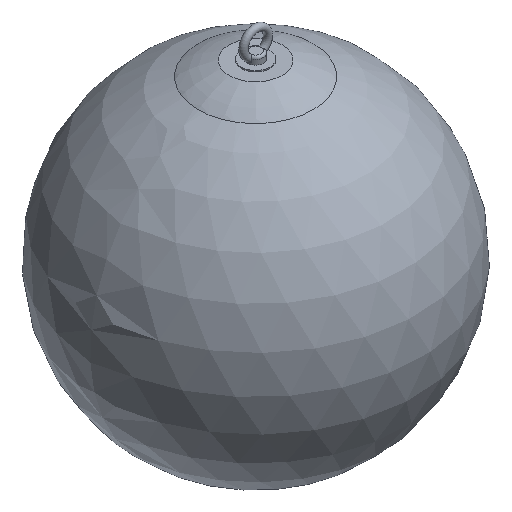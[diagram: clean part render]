
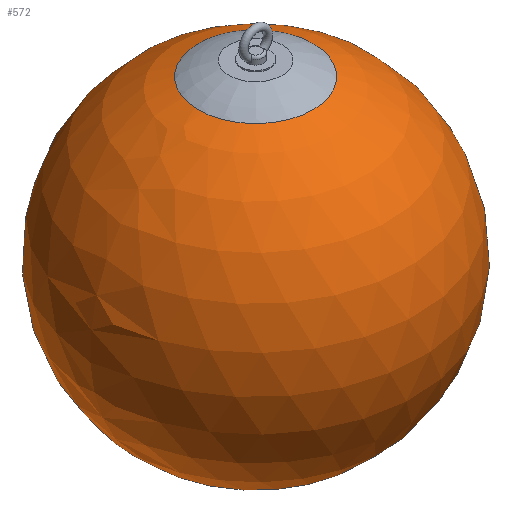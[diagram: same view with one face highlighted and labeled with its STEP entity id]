
A CAD part, isometric view. The second image highlights one B-rep face of the part: STEP entity #572.
In plain terms, the highlighted spherical face has radius 150 mm.
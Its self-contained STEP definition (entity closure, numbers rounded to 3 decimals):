
#27=SPHERICAL_SURFACE('',#673,150.);
#156=FACE_OUTER_BOUND('',#192,.T.);
#192=EDGE_LOOP('',(#526,#527,#528,#529));
#223=CIRCLE('',#674,41.414);
#224=CIRCLE('',#675,150.);
#225=CIRCLE('',#676,41.414);
#294=VERTEX_POINT('',#1245);
#295=VERTEX_POINT('',#1246);
#296=VERTEX_POINT('',#1248);
#373=EDGE_CURVE('',#294,#295,#223,.T.);
#374=EDGE_CURVE('',#296,#294,#224,.T.);
#375=EDGE_CURVE('',#295,#294,#225,.T.);
#526=ORIENTED_EDGE('',*,*,#373,.F.);
#527=ORIENTED_EDGE('',*,*,#374,.F.);
#528=ORIENTED_EDGE('',*,*,#374,.T.);
#529=ORIENTED_EDGE('',*,*,#375,.F.);
#572=ADVANCED_FACE('',(#156),#27,.T.);
#673=AXIS2_PLACEMENT_3D('',#1244,#831,#832);
#674=AXIS2_PLACEMENT_3D('',#1247,#833,#834);
#675=AXIS2_PLACEMENT_3D('',#1249,#835,#836);
#676=AXIS2_PLACEMENT_3D('',#1250,#837,#838);
#831=DIRECTION('center_axis',(0.,0.,
1.));
#832=DIRECTION('ref_axis',(1.,0.,0.));
#833=DIRECTION('center_axis',(0.,0.,-1.));
#834=DIRECTION('ref_axis',(1.,0.,0.));
#835=DIRECTION('center_axis',(0.,-1.,0.));
#836=DIRECTION('ref_axis',(-1.,0.,0.));
#837=DIRECTION('center_axis',(0.,0.,-1.));
#838=DIRECTION('ref_axis',(1.,0.,0.));
#1244=CARTESIAN_POINT('Origin',(0.,0.,144.17));
#1245=CARTESIAN_POINT('',(-41.414,0.,0.));
#1246=CARTESIAN_POINT('',(41.414,0.,0.));
#1247=CARTESIAN_POINT('Origin',(0.,0.,0.));
#1248=CARTESIAN_POINT('',(0.,0.,294.17));
#1249=CARTESIAN_POINT('Origin',(0.,0.,144.17));
#1250=CARTESIAN_POINT('Origin',(0.,0.,0.));
